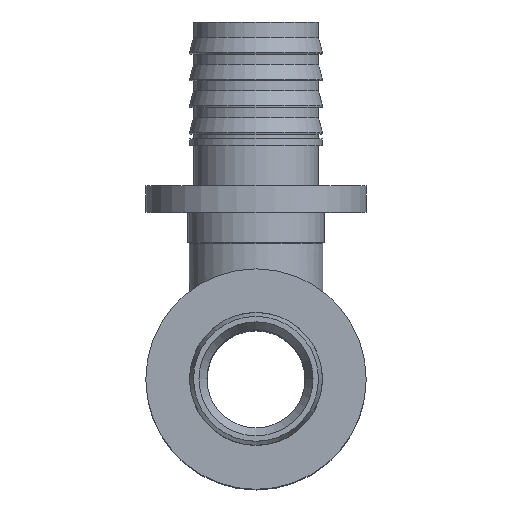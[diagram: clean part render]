
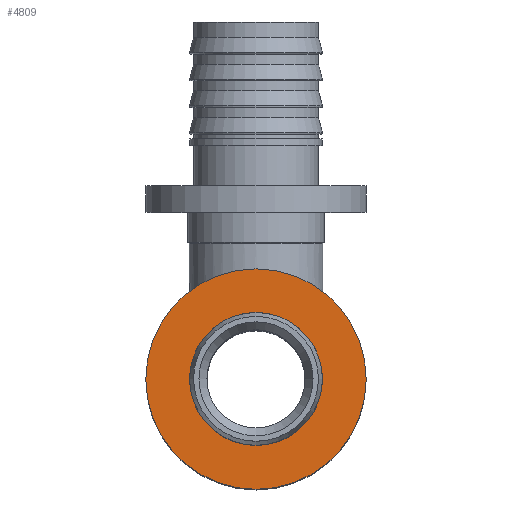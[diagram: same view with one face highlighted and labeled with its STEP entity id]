
A CAD part, top view. The second image highlights one B-rep face of the part: STEP entity #4809.
In plain terms, the highlighted planar face has unit normal (0, 0, 1).
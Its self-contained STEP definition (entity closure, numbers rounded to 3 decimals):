
#40=FACE_BOUND('',#1195,.T.);
#256=CIRCLE('',#5161,16.5);
#257=CIRCLE('',#5162,16.5);
#258=CIRCLE('',#5164,9.313);
#259=CIRCLE('',#5165,9.313);
#908=FACE_OUTER_BOUND('',#1194,.T.);
#1194=EDGE_LOOP('',(#4277,#4278));
#1195=EDGE_LOOP('',(#4279,#4280));
#2241=VERTEX_POINT('',#10629);
#2242=VERTEX_POINT('',#10630);
#2243=VERTEX_POINT('',#10635);
#2244=VERTEX_POINT('',#10636);
#2944=EDGE_CURVE('',#2241,#2242,#256,.T.);
#2945=EDGE_CURVE('',#2242,#2241,#257,.T.);
#2947=EDGE_CURVE('',#2243,#2244,#258,.T.);
#2948=EDGE_CURVE('',#2244,#2243,#259,.T.);
#4277=ORIENTED_EDGE('',*,*,#2944,.T.);
#4278=ORIENTED_EDGE('',*,*,#2945,.T.);
#4279=ORIENTED_EDGE('',*,*,#2947,.F.);
#4280=ORIENTED_EDGE('',*,*,#2948,.F.);
#4572=PLANE('',#5163);
#4809=ADVANCED_FACE('',(#908,#40),#4572,.T.);
#5161=AXIS2_PLACEMENT_3D('',#10631,#6108,#6109);
#5162=AXIS2_PLACEMENT_3D('',#10632,#6110,#6111);
#5163=AXIS2_PLACEMENT_3D('',#10634,#6113,#6114);
#5164=AXIS2_PLACEMENT_3D('',#10637,#6115,#6116);
#5165=AXIS2_PLACEMENT_3D('',#10638,#6117,#6118);
#6108=DIRECTION('center_axis',(0.,0.,1.));
#6109=DIRECTION('ref_axis',(1.,0.,0.));
#6110=DIRECTION('center_axis',(0.,0.,1.));
#6111=DIRECTION('ref_axis',(1.,0.,0.));
#6113=DIRECTION('center_axis',(0.,0.,1.));
#6114=DIRECTION('ref_axis',(1.,0.,0.));
#6115=DIRECTION('center_axis',(0.,0.,1.));
#6116=DIRECTION('ref_axis',(1.,0.,0.));
#6117=DIRECTION('center_axis',(0.,0.,1.));
#6118=DIRECTION('ref_axis',(1.,0.,0.));
#10629=CARTESIAN_POINT('',(0.,-16.5,82.5));
#10630=CARTESIAN_POINT('',(0.,16.5,82.5));
#10631=CARTESIAN_POINT('Origin',(0.,0.,82.5));
#10632=CARTESIAN_POINT('Origin',(0.,0.,82.5));
#10634=CARTESIAN_POINT('Origin',(0.,-9.313,82.5));
#10635=CARTESIAN_POINT('',(0.,-9.313,82.5));
#10636=CARTESIAN_POINT('',(0.,9.313,82.5));
#10637=CARTESIAN_POINT('Origin',(0.,0.,82.5));
#10638=CARTESIAN_POINT('Origin',(0.,0.,82.5));
